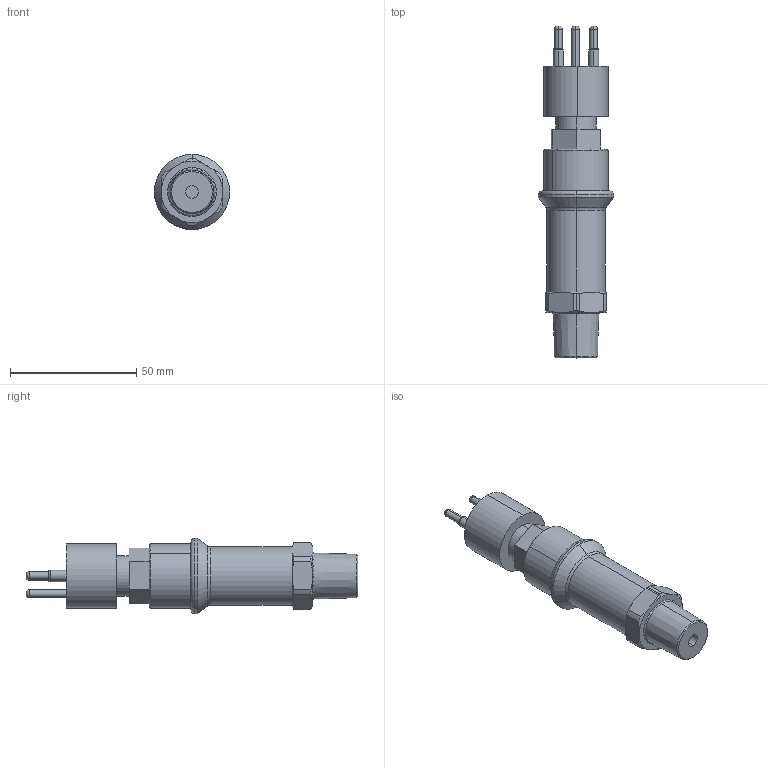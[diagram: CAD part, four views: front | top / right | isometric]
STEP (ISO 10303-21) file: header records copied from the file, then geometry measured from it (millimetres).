
FILE_DESCRIPTION (( 'STEP AP214' ), '1' );
FILE_NAME ('D-0422-DOD iss 1.STEP', '2024-06-14T11:56:09', ( '' ), ( '' ), 'SwSTEP 2.0', 'SolidWorks 2021', '' );
FILE_SCHEMA (( 'AUTOMOTIVE_DESIGN' ));
Length unit declared in the file: inch
Products named in the file (4): New Cover for Assembly Drawing; D-0422-DOD iss 1; D-0421-M iss 1; Wetcon Connector - long version
Assembly tree (3 placements, depth 2):
  D-0422-DOD iss 1
    D-0421-M iss 1
    New Cover for Assembly Drawing
    Wetcon Connector - long version
Bounding box: 29.76 x 131.46 x 29.76 mm (x, y, z)
Volume: 37324.7 mm3; surface area: 18013.8 mm2
Topology: 3 solids, 3 shells, 160 faces, 346 edges, 213 vertices
Faces by surface type: cylinder 57, plane 39, torus 32, cone 32
Entity records: 5758 total; most frequent: DIRECTION 863, CARTESIAN_POINT 797, ORIENTED_EDGE 692, AXIS2_PLACEMENT_3D 375, EDGE_CURVE 346, VERTEX_POINT 213, CIRCLE 209, EDGE_LOOP 185
